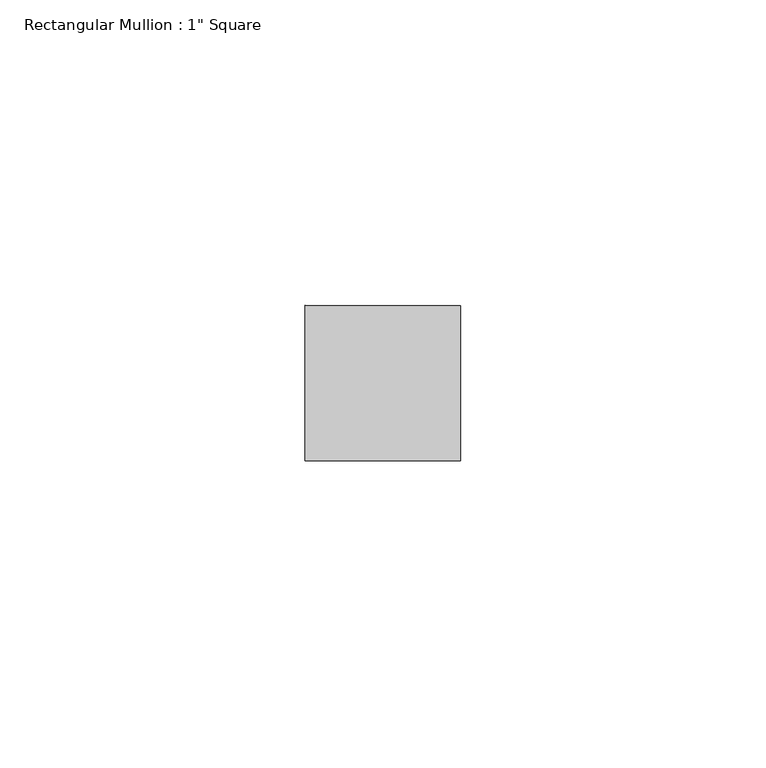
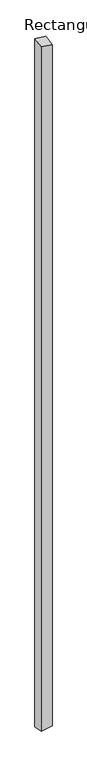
"""IFC4 building model written with IfcOpenShell, lengths in millimetres: member geometry."""

from ifc_helpers import new_model, si_unit, origin, place, context, project, spatial, faceted_brep, source, transform, mapped, element, save


def member_f3e2dd3c(model_context):
    return source(origin(), model_context, "Body", "Brep", [
        faceted_brep([(-12.7, 12.7, 4.3335773), (12.7, 12.7, 0.4420433), (12.7, 12.7, -1690.0606024), (-12.7, 12.7, -1693.9521363), (-12.7, -12.7, -0.4420433), (-12.7, -12.7, -1689.1765158), (12.7, -12.7, -4.3335773), (12.7, -12.7, -1685.2849818)], [[[0, 1, 2, 3]], [[4, 0, 3, 5]], [[6, 4, 5, 7]], [[1, 6, 7, 2]], [[1, 0, 4, 6]], [[2, 7, 5, 3]]]),
    ])


if __name__ == "__main__":
    model = new_model("IFC4")
    model_context = context("Model", 3, world=origin())
    ifc_project = project(units=[si_unit("LENGTHUNIT", "METRE", prefix="MILLI")], contexts=[model_context])
    site = spatial("IfcSite", under=ifc_project)
    building = spatial("IfcBuilding", under=site)
    placement = place(None, origin())
    member_shape = member_f3e2dd3c(model_context)
    element("IfcMember", 1, ObjectType="Rectangular Mullion : 1\" Square", at=placement, inside=building, context=model_context, shape_type="MappedRepresentation", body=[
        mapped(member_shape, transform((0.0, 0.0, 0.0), x_axis=(1.0, 0.0, 0.0), y_axis=(0.0, 1.0, 0.0), z_axis=(0.0, 0.0, 1.0))),
    ])
    save(model, "model.ifc")
